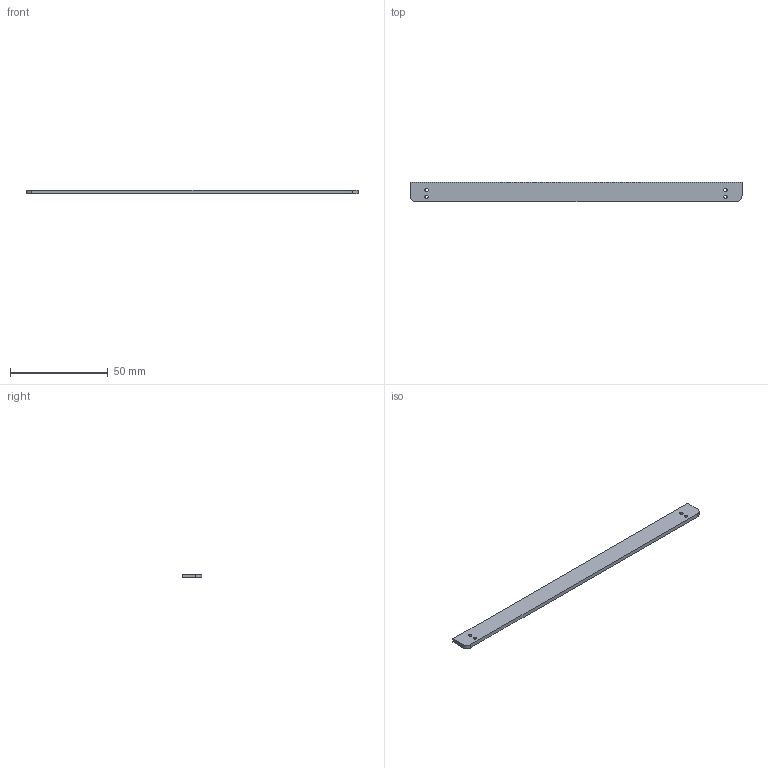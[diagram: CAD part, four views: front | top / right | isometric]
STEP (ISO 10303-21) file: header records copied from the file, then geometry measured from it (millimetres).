
FILE_DESCRIPTION(('FreeCAD Model'),'2;1');
FILE_NAME('Open CASCADE Shape Model','2025-06-17T17:17:13',(''),(''), 'Open CASCADE STEP processor 7.6','FreeCAD','Unknown');
FILE_SCHEMA(('CONFIG_CONTROL_DESIGN','SHAPE_APPEARANCE_LAYER_MIM'));
Length unit declared in the file: millimetre
Products named in the file (1): BottomSingleCCDSupportFrame
Bounding box: 170 x 10 x 2 mm (x, y, z)
Volume: 3370.8 mm3; surface area: 4128.6 mm2
Topology: 1 solids, 1 shells, 14 faces, 34 edges, 22 vertices
Faces by surface type: plane 6, cylinder 6, cone 2
Full cylindrical faces by diameter (mm): 1.7 x4
Entity records: 484 total; most frequent: DIRECTION 78, CARTESIAN_POINT 71, ORIENTED_EDGE 68, EDGE_CURVE 34, AXIS2_PLACEMENT_3D 29, FACE_BOUND 22, EDGE_LOOP 22, VERTEX_POINT 22
